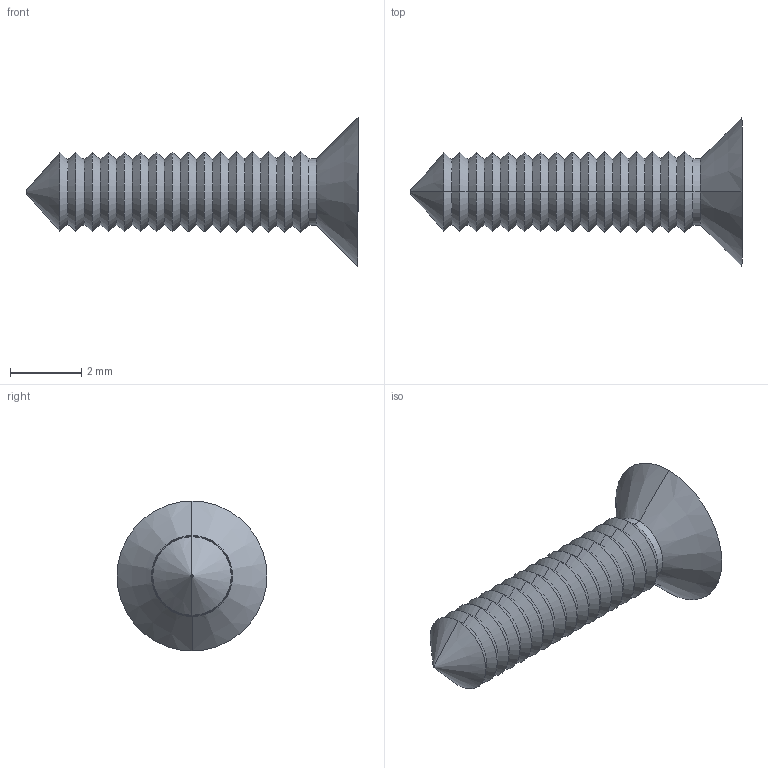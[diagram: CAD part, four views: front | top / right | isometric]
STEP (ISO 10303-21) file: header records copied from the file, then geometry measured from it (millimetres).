
FILE_DESCRIPTION (( 'STEP AP214' ), '1' );
FILE_NAME ('Cargol 2,2x9,5 PP85A.STEP', '2018-01-22T10:49:21', ( 'aaa' ), ( '' ), 'SwSTEP 2.0', 'SolidWorks 2013', '' );
FILE_SCHEMA (( 'AUTOMOTIVE_DESIGN' ));
Length unit declared in the file: millimetre
Products named in the file (1): Cargol 2,2x9,5 PP85A
Bounding box: 9.3 x 4.2 x 4.2 mm (x, y, z)
Volume: 32.4 mm3; surface area: 99.3 mm2
Topology: 1 solids, 1 shells, 83 faces, 174 edges, 94 vertices
Faces by surface type: cone 66, plane 15, cylinder 2
Entity records: 2184 total; most frequent: DIRECTION 412, CARTESIAN_POINT 352, ORIENTED_EDGE 348, EDGE_CURVE 174, AXIS2_PLACEMENT_3D 154, LINE 104, VECTOR 104, VERTEX_POINT 94
